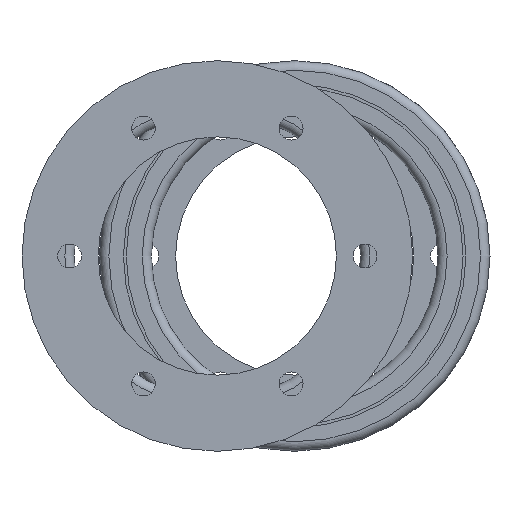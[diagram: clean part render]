
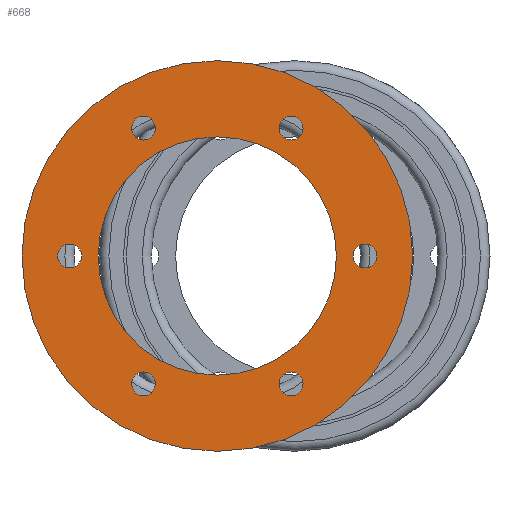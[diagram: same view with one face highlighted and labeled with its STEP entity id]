
A CAD part, left-side view. The second image highlights one B-rep face of the part: STEP entity #668.
In plain terms, the highlighted planar face has unit normal (-1, 0, 0).
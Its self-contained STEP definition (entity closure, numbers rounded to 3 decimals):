
#668 = ADVANCED_FACE( 'NONE', ( #997, #998, #999, #1000, #1001, #1002, #1003, #1004 ), #1005, .F. );
#997 = FACE_OUTER_BOUND( '', #1143, .T. );
#998 = FACE_BOUND( '', #1144, .T. );
#999 = FACE_BOUND( '', #1145, .T. );
#1000 = FACE_BOUND( '', #1146, .T. );
#1001 = FACE_BOUND( '', #1147, .T. );
#1002 = FACE_BOUND( '', #1148, .T. );
#1003 = FACE_BOUND( '', #1149, .T. );
#1004 = FACE_BOUND( '', #1150, .T. );
#1005 = PLANE( '', #1151 );
#1143 = EDGE_LOOP( '', ( #1347 ) );
#1144 = EDGE_LOOP( '', ( #1348 ) );
#1145 = EDGE_LOOP( '', ( #1349 ) );
#1146 = EDGE_LOOP( '', ( #1350 ) );
#1147 = EDGE_LOOP( '', ( #1351 ) );
#1148 = EDGE_LOOP( '', ( #1352 ) );
#1149 = EDGE_LOOP( '', ( #1353 ) );
#1150 = EDGE_LOOP( '', ( #1354 ) );
#1151 = AXIS2_PLACEMENT_3D( '', #1355, #1356, #1357 );
#1347 = ORIENTED_EDGE( '', *, *, #1550, .T. );
#1348 = ORIENTED_EDGE( '', *, *, #1556, .F. );
#1349 = ORIENTED_EDGE( '', *, *, #1552, .F. );
#1350 = ORIENTED_EDGE( '', *, *, #1554, .F. );
#1351 = ORIENTED_EDGE( '', *, *, #1557, .F. );
#1352 = ORIENTED_EDGE( '', *, *, #1558, .F. );
#1353 = ORIENTED_EDGE( '', *, *, #1559, .F. );
#1354 = ORIENTED_EDGE( '', *, *, #1560, .F. );
#1355 = CARTESIAN_POINT( '', ( 0., 25., 0. ) );
#1356 = DIRECTION( '', ( 1., 0., 0. ) );
#1357 = DIRECTION( '', ( 0., 1., 0. ) );
#1550 = EDGE_CURVE( 'NONE', #1722, #1722, #1723, .T. );
#1552 = EDGE_CURVE( 'NONE', #1726, #1726, #1727, .T. );
#1554 = EDGE_CURVE( 'NONE', #1730, #1730, #1731, .T. );
#1556 = EDGE_CURVE( 'NONE', #1734, #1734, #1735, .T. );
#1557 = EDGE_CURVE( 'NONE', #1736, #1736, #1737, .T. );
#1558 = EDGE_CURVE( 'NONE', #1738, #1738, #1739, .T. );
#1559 = EDGE_CURVE( 'NONE', #1740, #1740, #1741, .T. );
#1560 = EDGE_CURVE( 'NONE', #1742, #1742, #1743, .T. );
#1722 = VERTEX_POINT( '', #1754 );
#1723 = CIRCLE( '', #1755, 41. );
#1726 = VERTEX_POINT( '', #1758 );
#1727 = CIRCLE( '', #1759, 2.5 );
#1730 = VERTEX_POINT( '', #1762 );
#1731 = CIRCLE( '', #1763, 2.5 );
#1734 = VERTEX_POINT( '', #1766 );
#1735 = CIRCLE( '', #1767, 2.5 );
#1736 = VERTEX_POINT( '', #1768 );
#1737 = CIRCLE( '', #1769, 2.5 );
#1738 = VERTEX_POINT( '', #1770 );
#1739 = CIRCLE( '', #1771, 25. );
#1740 = VERTEX_POINT( '', #1772 );
#1741 = CIRCLE( '', #1773, 2.5 );
#1742 = VERTEX_POINT( '', #1774 );
#1743 = CIRCLE( '', #1775, 2.5 );
#1754 = CARTESIAN_POINT( '', ( 0., 0., 41. ) );
#1755 = AXIS2_PLACEMENT_3D( '', #1786, #1787, #1788 );
#1758 = CARTESIAN_POINT( '', ( 0., -15.5, -24.347 ) );
#1759 = AXIS2_PLACEMENT_3D( '', #1792, #1793, #1794 );
#1762 = CARTESIAN_POINT( '', ( 0., 15.5, -24.347 ) );
#1763 = AXIS2_PLACEMENT_3D( '', #1798, #1799, #1800 );
#1766 = CARTESIAN_POINT( '', ( 0., -15.5, 29.347 ) );
#1767 = AXIS2_PLACEMENT_3D( '', #1804, #1805, #1806 );
#1768 = CARTESIAN_POINT( '', ( 0., 31., 2.5 ) );
#1769 = AXIS2_PLACEMENT_3D( '', #1807, #1808, #1809 );
#1770 = CARTESIAN_POINT( '', ( 0., 0., 25. ) );
#1771 = AXIS2_PLACEMENT_3D( '', #1810, #1811, #1812 );
#1772 = CARTESIAN_POINT( '', ( 0., -31., 2.5 ) );
#1773 = AXIS2_PLACEMENT_3D( '', #1813, #1814, #1815 );
#1774 = CARTESIAN_POINT( '', ( 0., 15.5, 29.347 ) );
#1775 = AXIS2_PLACEMENT_3D( '', #1816, #1817, #1818 );
#1786 = CARTESIAN_POINT( '', ( 0., 0., 0. ) );
#1787 = DIRECTION( '', ( -1., 0., 0. ) );
#1788 = DIRECTION( '', ( 0., 0., 1. ) );
#1792 = CARTESIAN_POINT( '', ( 0., -15.5, -26.847 ) );
#1793 = DIRECTION( '', ( -1., 0., 0. ) );
#1794 = DIRECTION( '', ( 0., 0., 1. ) );
#1798 = CARTESIAN_POINT( '', ( 0., 15.5, -26.847 ) );
#1799 = DIRECTION( '', ( -1., 0., 0. ) );
#1800 = DIRECTION( '', ( 0., 0., 1. ) );
#1804 = CARTESIAN_POINT( '', ( 0., -15.5, 26.847 ) );
#1805 = DIRECTION( '', ( -1., 0., 0. ) );
#1806 = DIRECTION( '', ( 0., 0., 1. ) );
#1807 = CARTESIAN_POINT( '', ( 0., 31., 0. ) );
#1808 = DIRECTION( '', ( -1., 0., 0. ) );
#1809 = DIRECTION( '', ( 0., 0., 1. ) );
#1810 = CARTESIAN_POINT( '', ( 0., 0., 0. ) );
#1811 = DIRECTION( '', ( -1., 0., 0. ) );
#1812 = DIRECTION( '', ( 0., 0., 1. ) );
#1813 = CARTESIAN_POINT( '', ( 0., -31., 0. ) );
#1814 = DIRECTION( '', ( -1., 0., 0. ) );
#1815 = DIRECTION( '', ( 0., 0., 1. ) );
#1816 = CARTESIAN_POINT( '', ( 0., 15.5, 26.847 ) );
#1817 = DIRECTION( '', ( -1., 0., 0. ) );
#1818 = DIRECTION( '', ( 0., 0., 1. ) );
